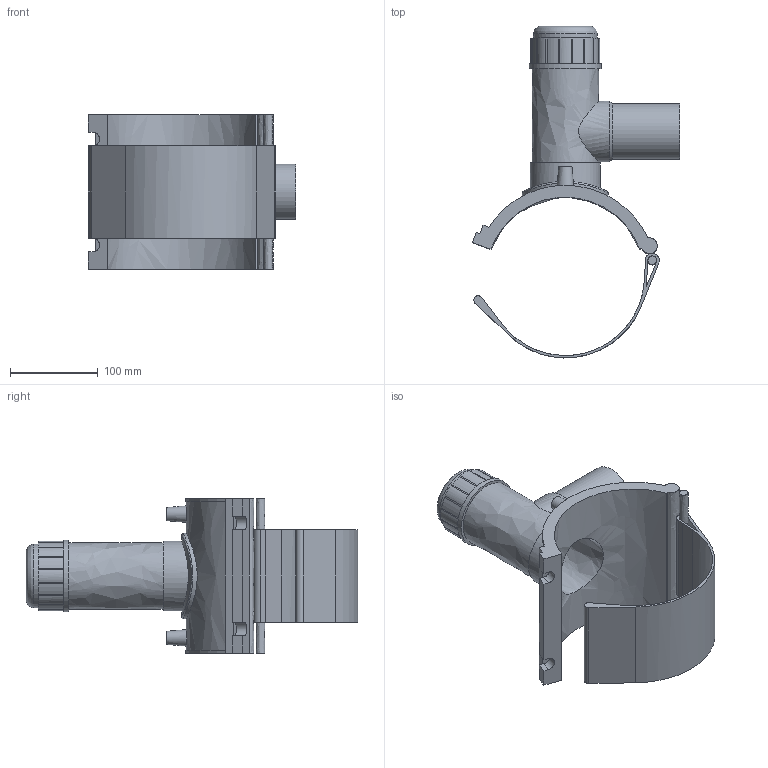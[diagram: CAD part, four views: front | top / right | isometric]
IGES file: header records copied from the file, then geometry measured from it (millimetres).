
Global section: file name: 491304180063; native system: Autodesk Inventor 2019; preprocessor: unknown; author: KIM; date: 20230323.112849; units: millimetre
Bounding box: 235.72 x 377.7 x 176 mm (x, y, z)
Volume: 1146033.5 mm3; surface area: 293481.6 mm2
Topology: 2 solids, 2 shells, 108 faces, 282 edges, 193 vertices
Faces by surface type: bspline 108
